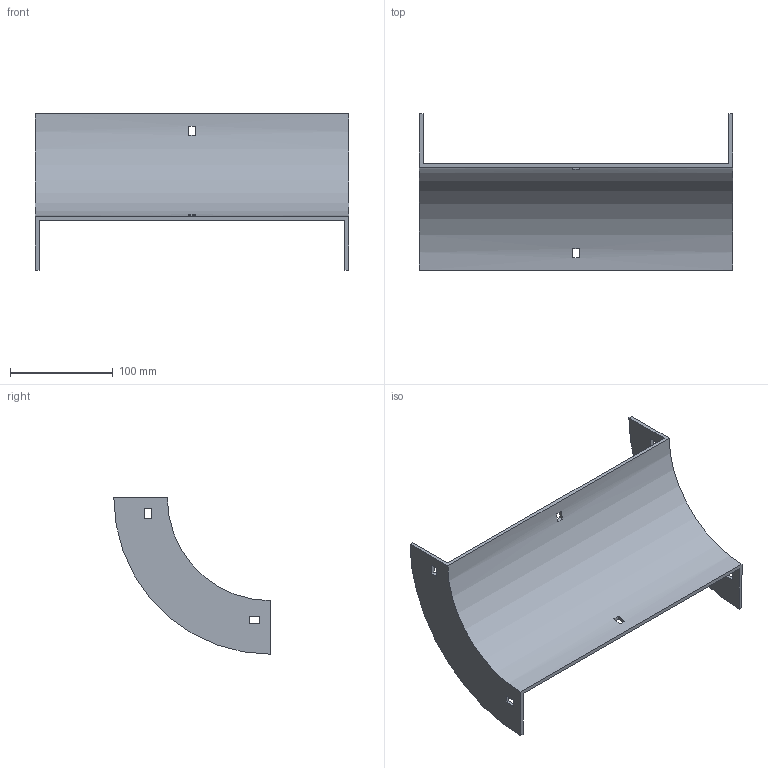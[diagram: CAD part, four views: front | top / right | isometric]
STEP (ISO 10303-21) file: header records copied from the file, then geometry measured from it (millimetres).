
FILE_DESCRIPTION (( 'STEP AP214' ), '1' );
FILE_NAME ('33B1B300.step', '2025-02-21T09:31:36', ( '' ), ( '' ), 'SwSTEP 2.0', 'SolidWorks 2023', '' );
FILE_SCHEMA (( 'AUTOMOTIVE_DESIGN' ));
Length unit declared in the file: millimetre
Products named in the file (1): 33B1B300
Bounding box: 304 x 152 x 152 mm (x, y, z)
Volume: 236789.6 mm3; surface area: 140463.5 mm2
Topology: 1 solids, 1 shells, 34 faces, 96 edges, 64 vertices
Faces by surface type: plane 30, cylinder 4
Entity records: 1143 total; most frequent: CARTESIAN_POINT 195, ORIENTED_EDGE 192, DIRECTION 182, EDGE_CURVE 96, LINE 80, VECTOR 80, VERTEX_POINT 64, AXIS2_PLACEMENT_3D 51
